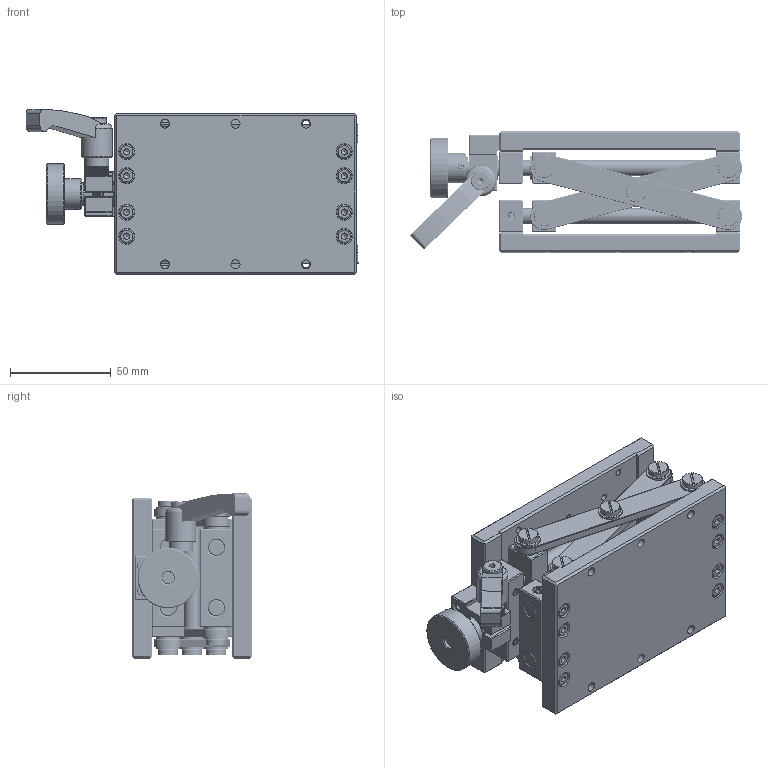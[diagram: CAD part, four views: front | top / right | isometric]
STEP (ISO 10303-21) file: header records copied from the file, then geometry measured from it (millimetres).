
FILE_DESCRIPTION (( 'STEP AP203' ), '1' );
FILE_NAME ('BLJZ80A.STEP', '2024-07-15T12:04:10', ( 'Windows User' ), ( 'P R C' ), 'SwSTEP 2.0', 'SolidWorks 2024', '' );
FILE_SCHEMA (( 'CONFIG_CONTROL_DESIGN' ));
Products named in the file (1): BLJZ80A
Bounding box: 164.97 x 60 x 82 mm (x, y, z)
Volume: 301088.5 mm3; surface area: 134466 mm2
Topology: 83 solids, 83 shells, 1814 faces, 4018 edges, 2430 vertices
Faces by surface type: plane 1165, cylinder 340, cone 245, bspline 41, torus 22, sphere 1
Full cylindrical faces by diameter (mm): 2.05 x2, 2.5 x4, 3 x3, 3.3 x61, 3.4 x2, 3.5 x10, 4 x23, 4.5 x21, 5.5 x2, 6 x30, 6.02 x10, 6.038 x1, 6.5 x22, 7 x14, 8 x38, 8.5 x1, 9.6 x2, 10 x13, 11 x1, 11.6 x1, 12 x25, 13 x2, 14.5 x1, 15 x2, 15.5 x1, 30 x1
Entity records: 82998 total; most frequent: CARTESIAN_POINT 46277, DIRECTION 7502, ORIENTED_EDGE 6680, EDGE_CURVE 3340, AXIS2_PLACEMENT_3D 2872, EDGE_LOOP 2618, VERTEX_POINT 2278, FACE_OUTER_BOUND 2118
